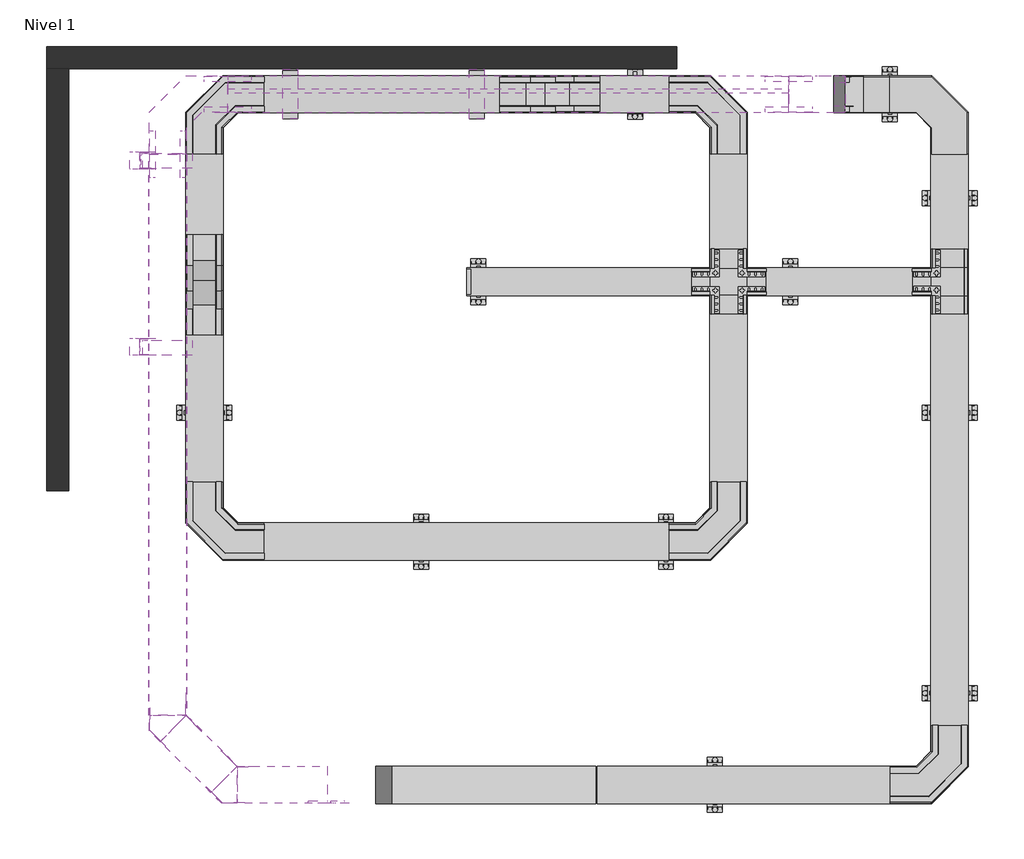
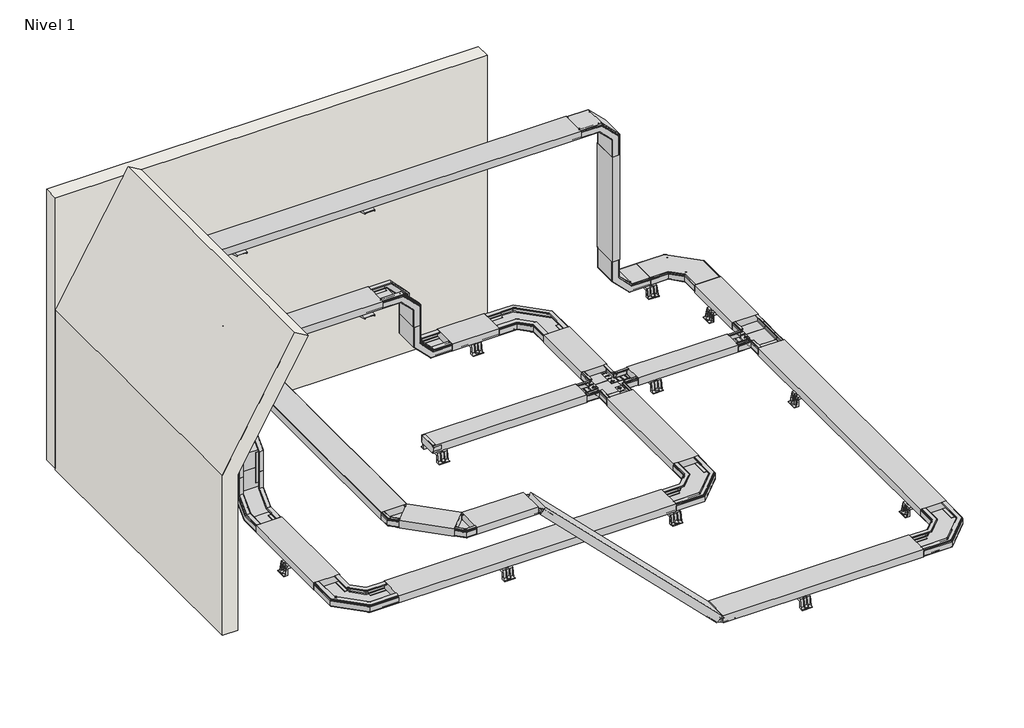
# One storey, incomplete: 83 proxies, 19 cable carrier fittings, 18 cable carrier segments, 2 walls.
"""IFC4 building model written with IfcOpenShell, lengths in millimetres."""

from ifc_helpers import new_model, si_unit, frame, origin, place, context, project, spatial, polyline, outline, extrude, transform, mapped, element, save
from components import generic_models_6ad4b34d, generic_models_a6422015, generic_models_e9cec0f6, generic_models_3a76c5b3, generic_models_60ac8231, generic_models_fcc492fe, generic_models_37840590, generic_models_46448a1f, generic_models_967abdb5, generic_models_b6d866a1, generic_models_7a9899f3, generic_models_7da3a50a, generic_models_42cf7297, generic_models_4e1091ae, cable_carrier_fitting_d8d1faad, cable_carrier_fitting_498f85e9, cable_carrier_fitting_5215da82, cable_carrier_fitting_34d8d39c, cable_carrier_fitting_aa413bb8, cable_carrier_fitting_2ceb56a0, cable_carrier_fitting_805e520f, cable_carrier_fitting_e7411418, cable_carrier_fitting_6fc50fa4, muro_recto_muro_recto_891dabb9, muros_2_muros_2_61a0869e

model = new_model("IFC4")

# Units and contexts
model_context = context("Model", 3, world=origin())
ifc_project = project(units=[si_unit("LENGTHUNIT", "METRE", prefix="MILLI")], contexts=[model_context])

# Site, building, storey
site = spatial("IfcSite", under=ifc_project)
building = spatial("IfcBuilding", under=site)
storey = spatial("IfcBuildingStorey", under=building, Name="Nivel 1", Elevation=0.0)

# Proxies
placement = place(None, origin())
generic_models_shape = generic_models_6ad4b34d(model_context)
element("IfcBuildingElementProxy", 1, Name="Cable_Tray_PDBPE_Basorplast : Cable_Tray_PDBPE_Basorplast", ObjectType="Cable_Tray_PDBPE_Basorplast : Cable_Tray_PDBPE_Basorplast", at=placement, inside=storey, context=model_context, shape_type="MappedRepresentation", body=[
    mapped(generic_models_shape, transform((5526.7431292, 2141.3690541, 48.6), x_axis=(0.0, 1.0, 0.0), y_axis=(-1.0, 0.0, 0.0), z_axis=(0.0, 0.0, 1.0))),
])
element("IfcBuildingElementProxy", 2, Name="Cable_Tray_PDBPE_Basorplast : Cable_Tray_PDBPE_Basorplast", ObjectType="Cable_Tray_PDBPE_Basorplast : Cable_Tray_PDBPE_Basorplast", at=placement, inside=storey, context=model_context, shape_type="MappedRepresentation", body=[
    mapped(generic_models_shape, transform((5526.7431292, 1998.5690541, 48.6), x_axis=(-1.0, 0.0, 0.0), y_axis=(0.0, -1.0, 0.0), z_axis=(0.0, 0.0, 1.0))),
])
element("IfcBuildingElementProxy", 3, Name="Cable_Tray_PDBPE_Basorplast : Cable_Tray_PDBPE_Basorplast", ObjectType="Cable_Tray_PDBPE_Basorplast : Cable_Tray_PDBPE_Basorplast", at=placement, inside=storey, context=model_context, shape_type="MappedRepresentation", body=[
    mapped(generic_models_shape, transform((4343.85035, 2142.4290541, 48.6), x_axis=(0.0, 1.0, 0.0), y_axis=(-1.0, 0.0, 0.0), z_axis=(0.0, 0.0, 1.0))),
])
element("IfcBuildingElementProxy", 4, Name="Cable_Tray_PDBPE_Basorplast : Cable_Tray_PDBPE_Basorplast", ObjectType="Cable_Tray_PDBPE_Basorplast : Cable_Tray_PDBPE_Basorplast", at=placement, inside=storey, context=model_context, shape_type="MappedRepresentation", body=[
    mapped(generic_models_shape, transform((4343.85035, 1997.5090541, 48.6), x_axis=(-1.0, 0.0, 0.0), y_axis=(0.0, -1.0, 0.0), z_axis=(0.0, 0.0, 1.0))),
])
element("IfcBuildingElementProxy", 5, Name="Cable_Tray_PDBPE_Basorplast : Cable_Tray_PDBPE_Basorplast", ObjectType="Cable_Tray_PDBPE_Basorplast : Cable_Tray_PDBPE_Basorplast", at=placement, inside=storey, context=model_context, shape_type="MappedRepresentation", body=[
    mapped(generic_models_shape, transform((4538.77035, 1997.5090541, 48.6), x_axis=(0.0, -1.0, 0.0), y_axis=(1.0, 0.0, 0.0), z_axis=(0.0, 0.0, 1.0))),
])
element("IfcBuildingElementProxy", 6, Name="Cable_Tray_PDBPE_Basorplast : Cable_Tray_PDBPE_Basorplast", ObjectType="Cable_Tray_PDBPE_Basorplast : Cable_Tray_PDBPE_Basorplast", at=placement, inside=storey, context=model_context, shape_type="MappedRepresentation", body=[
    mapped(generic_models_shape, transform((4538.77035, 2142.4290541, 48.6), x_axis=(1.0, 0.0, 0.0), y_axis=(0.0, 1.0, 0.0), z_axis=(0.0, 0.0, 1.0))),
])
generic_models_2_shape = generic_models_a6422015(model_context)
element("IfcBuildingElementProxy", 7, Name="Cable_Tray_Cover_TCCBPE_Basorplast : Basorplast TCCBPE 60X200", ObjectType="Cable_Tray_Cover_TCCBPE_Basorplast : Basorplast TCCBPE 60X200", at=placement, inside=storey, context=model_context, shape_type="MappedRepresentation", body=[
    mapped(generic_models_2_shape, transform((5303.1431292, 3072.4322597, 105.0), x_axis=(-1.0, 0.0, 0.0), y_axis=(0.0, -1.0, 0.0), z_axis=(0.0, 0.0, 1.0))),
])
generic_models_3_shape = generic_models_e9cec0f6(model_context)
element("IfcBuildingElementProxy", 8, Name="Cable_Tray_Cover_TCPBPE_Basorplast : Basorplast TCPBPE 200", ObjectType="Cable_Tray_Cover_TCPBPE_Basorplast : Basorplast TCPBPE 200", at=placement, inside=storey, context=model_context, shape_type="MappedRepresentation", body=[
    mapped(generic_models_3_shape, transform((5624.1431292, 2752.4322597, 105.0), x_axis=(0.0, 1.0, 0.0), y_axis=(-1.0, 0.0, 0.0), z_axis=(0.0, 0.0, 1.0))),
])
generic_models_4_shape = generic_models_3a76c5b3(model_context)
element("IfcBuildingElementProxy", 9, Name="Cable_Tray_Divider_Profile_PSBPE_Basorplast : Basorplast PSBPE 60", ObjectType="Cable_Tray_Divider_Profile_PSBPE_Basorplast : Basorplast PSBPE 60", at=placement, inside=storey, context=model_context, shape_type="MappedRepresentation", body=[
    mapped(generic_models_4_shape, transform((1761.6960663, 3101.6474373, 1511.1086545), x_axis=(1.0, 0.0, 0.0), y_axis=(0.0, 1.0, 0.0), z_axis=(0.0, 0.0, 1.0))),
])
generic_models_5_shape = generic_models_60ac8231(model_context)
element("IfcBuildingElementProxy", 10, Name="Cable_Tray_FinalCover_TFBPE_Basorplast : Basorplast TFBPE 60X150", ObjectType="Cable_Tray_FinalCover_TFBPE_Basorplast : Basorplast TFBPE 60X150", at=placement, inside=storey, context=model_context, shape_type="MappedRepresentation", body=[
    mapped(generic_models_5_shape, transform((3041.31035, 2069.9690541, 75.0), x_axis=(0.0, -1.0, 0.0), y_axis=(0.0, 0.0, 1.0), z_axis=(-1.0, 0.0, 0.0))),
])
generic_models_6_shape = generic_models_fcc492fe(model_context)
element("IfcBuildingElementProxy", 11, Name="PSHGR_Support-Basorplast : Basorplast PSHGR 600", ObjectType="PSHGR_Support-Basorplast : Basorplast PSHGR 600", at=placement, inside=storey, context=model_context, shape_type="MappedRepresentation", body=[
    mapped(generic_models_6_shape, transform((1290.5958632, 1722.1007757, 1555.1098924), x_axis=(0.0, 1.0, 0.0), y_axis=(0.0, 0.0, 1.0), z_axis=(1.0, 0.0, 0.0))),
])
element("IfcBuildingElementProxy", 12, Name="PSHGR_Support-Basorplast : Basorplast PSHGR 600", ObjectType="PSHGR_Support-Basorplast : Basorplast PSHGR 600", at=placement, inside=storey, context=model_context, shape_type="MappedRepresentation", body=[
    mapped(generic_models_6_shape, transform((1294.1960663, 2718.9670724, 1555.1098924), x_axis=(0.0, 1.0, 0.0), y_axis=(0.0, 0.0, 1.0), z_axis=(1.0, 0.0, 0.0))),
])
generic_models_7_shape = generic_models_37840590(model_context)
element("IfcBuildingElementProxy", 13, Name="KSHGR_Support-Basorplast : Basorplast KSHGR", ObjectType="KSHGR_Support-Basorplast : Basorplast KSHGR", at=placement, inside=storey, context=model_context, shape_type="MappedRepresentation", body=[
    mapped(generic_models_7_shape, transform((1262.7254216, 2718.9670724, 1854.317976), x_axis=(0.0, 1.0, 0.0), y_axis=(0.5000000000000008, 0.0, 0.8660254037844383), z_axis=(0.8660254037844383, 0.0, -0.5000000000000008))),
])
element("IfcBuildingElementProxy", 14, Name="KSHGR_Support-Basorplast : Basorplast KSHGR", ObjectType="KSHGR_Support-Basorplast : Basorplast KSHGR", at=placement, inside=storey, context=model_context, shape_type="MappedRepresentation", body=[
    mapped(generic_models_7_shape, transform((1262.7254216, 1722.1007757, 1854.317976), x_axis=(0.0, 1.0, 0.0), y_axis=(0.5000000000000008, 0.0, 0.8660254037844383), z_axis=(0.8660254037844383, 0.0, -0.5000000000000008))),
])
generic_models_8_shape = generic_models_46448a1f(model_context)
element("IfcBuildingElementProxy", 15, Name="Cable_Tray_Cover_TBPE_Basorplast : Basorplast TBPE 200", ObjectType="Cable_Tray_Cover_TBPE_Basorplast : Basorplast TBPE 200", at=placement, inside=storey, context=model_context, shape_type="MappedRepresentation", body=[
    mapped(generic_models_8_shape, transform((1441.6341343, 2751.6322597, 1510.0), x_axis=(1.0, 0.0, 0.0), y_axis=(0.0, 1.0, 0.0), z_axis=(0.0, 0.0, 1.0))),
])
generic_models_9_shape = generic_models_967abdb5(model_context)
element("IfcBuildingElementProxy", 16, Name="JUBPE_Juction_H60-Basorplast : Basorplast JUBPE 60", ObjectType="JUBPE_Juction_H60-Basorplast : Basorplast JUBPE 60", at=placement, inside=storey, context=model_context, shape_type="MappedRepresentation", body=[
    mapped(generic_models_9_shape, transform((1345.2960663, 2752.0322597, 1453.6), x_axis=(1.0000000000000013, 0.0, 0.0), y_axis=(0.0, 1.0000000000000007, 0.0), z_axis=(0.0, 0.0, 1.0000000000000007))),
])
element("IfcBuildingElementProxy", 17, Name="JUBPE_Juction_H60-Basorplast : Basorplast JUBPE 60", ObjectType="JUBPE_Juction_H60-Basorplast : Basorplast JUBPE 60", at=placement, inside=storey, context=model_context, shape_type="MappedRepresentation", body=[
    mapped(generic_models_9_shape, transform((1538.0960663, 2752.0322597, 1453.6), x_axis=(-1.0000000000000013, 0.0, 0.0), y_axis=(0.0, -1.0000000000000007, 0.0), z_axis=(0.0, 0.0, 1.0000000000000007))),
])
element("IfcBuildingElementProxy", 18, Name="JUBPE_Juction_H60-Basorplast : Basorplast JUBPE 60", ObjectType="JUBPE_Juction_H60-Basorplast : Basorplast JUBPE 60", at=placement, inside=storey, context=model_context, shape_type="MappedRepresentation", body=[
    mapped(generic_models_9_shape, transform((1762.0960663, 2976.0322597, 1453.6), x_axis=(0.0, 1.0, 0.0), y_axis=(-1.0, 0.0, 0.0), z_axis=(0.0, 0.0, 1.0))),
])
element("IfcBuildingElementProxy", 19, Name="JUBPE_Juction_H60-Basorplast : Basorplast JUBPE 60", ObjectType="JUBPE_Juction_H60-Basorplast : Basorplast JUBPE 60", at=placement, inside=storey, context=model_context, shape_type="MappedRepresentation", body=[
    mapped(generic_models_9_shape, transform((1762.0960663, 3168.8322597, 1453.6), x_axis=(0.0, -1.0, 0.0), y_axis=(1.0, 0.0, 0.0), z_axis=(0.0, 0.0, 1.0))),
])
element("IfcBuildingElementProxy", 20, Name="JUBPE_Juction_H60-Basorplast : Basorplast JUBPE 60", ObjectType="JUBPE_Juction_H60-Basorplast : Basorplast JUBPE 60", at=placement, inside=storey, context=model_context, shape_type="MappedRepresentation", body=[
    mapped(generic_models_9_shape, transform((4762.7431292, 2976.0322597, 1453.6), x_axis=(0.0, 1.0, 0.0), y_axis=(-1.0, 0.0, 0.0), z_axis=(0.0, 0.0, 1.0))),
])
element("IfcBuildingElementProxy", 21, Name="JUBPE_Juction_H60-Basorplast : Basorplast JUBPE 60", ObjectType="JUBPE_Juction_H60-Basorplast : Basorplast JUBPE 60", at=placement, inside=storey, context=model_context, shape_type="MappedRepresentation", body=[
    mapped(generic_models_9_shape, transform((4762.7431292, 3168.8322597, 1453.6), x_axis=(0.0, -1.0, 0.0), y_axis=(1.0, 0.0, 0.0), z_axis=(0.0, 0.0, 1.0))),
])
element("IfcBuildingElementProxy", 22, Name="JUBPE_Juction_H60-Basorplast : Basorplast JUBPE 60", ObjectType="JUBPE_Juction_H60-Basorplast : Basorplast JUBPE 60", at=placement, inside=storey, context=model_context, shape_type="MappedRepresentation", body=[
    mapped(generic_models_9_shape, transform((5302.7431292, 3168.8322597, 48.6), x_axis=(0.0, -1.0, 0.0), y_axis=(1.0, 0.0, 0.0), z_axis=(0.0, 0.0, 1.0))),
])
element("IfcBuildingElementProxy", 23, Name="JUBPE_Juction_H60-Basorplast : Basorplast JUBPE 60", ObjectType="JUBPE_Juction_H60-Basorplast : Basorplast JUBPE 60", at=placement, inside=storey, context=model_context, shape_type="MappedRepresentation", body=[
    mapped(generic_models_9_shape, transform((5302.7431292, 2976.0322597, 48.6), x_axis=(0.0, 1.0, 0.0), y_axis=(-1.0, 0.0, 0.0), z_axis=(0.0, 0.0, 1.0))),
])
element("IfcBuildingElementProxy", 24, Name="JUBPE_Juction_H60-Basorplast : Basorplast JUBPE 60", ObjectType="JUBPE_Juction_H60-Basorplast : Basorplast JUBPE 60", at=placement, inside=storey, context=model_context, shape_type="MappedRepresentation", body=[
    mapped(generic_models_9_shape, transform((1956.8419592, 776.3690541, 48.600106), x_axis=(0.0, -1.0, 0.0), y_axis=(0.999999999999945, 0.0, 3.3163585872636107e-07), z_axis=(-3.3163585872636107e-07, 0.0, 0.999999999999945))),
])
element("IfcBuildingElementProxy", 25, Name="JUBPE_Juction_H60-Basorplast : Basorplast JUBPE 60", ObjectType="JUBPE_Juction_H60-Basorplast : Basorplast JUBPE 60", at=placement, inside=storey, context=model_context, shape_type="MappedRepresentation", body=[
    mapped(generic_models_9_shape, transform((1956.8419592, 583.5690541, 48.600106), x_axis=(0.0, 1.0, 0.0), y_axis=(-0.999999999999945, 0.0, -3.3163585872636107e-07), z_axis=(-3.3163585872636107e-07, 0.0, 0.999999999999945))),
])
element("IfcBuildingElementProxy", 26, Name="JUBPE_Juction_H60-Basorplast : Basorplast JUBPE 60", ObjectType="JUBPE_Juction_H60-Basorplast : Basorplast JUBPE 60", at=placement, inside=storey, context=model_context, shape_type="MappedRepresentation", body=[
    mapped(generic_models_9_shape, transform((1540.8419507, 999.1690541, 48.599968), x_axis=(0.999999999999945, 0.0, 3.3163585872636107e-07), y_axis=(0.0, 1.0, 0.0), z_axis=(-3.3163585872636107e-07, 0.0, 0.999999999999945))),
])
element("IfcBuildingElementProxy", 27, Name="JUBPE_Juction_H60-Basorplast : Basorplast JUBPE 60", ObjectType="JUBPE_Juction_H60-Basorplast : Basorplast JUBPE 60", at=placement, inside=storey, context=model_context, shape_type="MappedRepresentation", body=[
    mapped(generic_models_9_shape, transform((1733.6419507, 999.1690541, 48.600032), x_axis=(-0.999999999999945, 0.0, -3.3163585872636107e-07), y_axis=(0.0, -1.0, 0.0), z_axis=(-3.3163585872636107e-07, 0.0, 0.999999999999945))),
])
element("IfcBuildingElementProxy", 28, Name="JUBPE_Juction_H60-Basorplast : Basorplast JUBPE 60", ObjectType="JUBPE_Juction_H60-Basorplast : Basorplast JUBPE 60", at=placement, inside=storey, context=model_context, shape_type="MappedRepresentation", body=[
    mapped(generic_models_9_shape, transform((4121.71035, 2976.0322597, 48.6), x_axis=(0.0, 1.0, 0.0), y_axis=(-1.0, 0.0, 0.0), z_axis=(0.0, 0.0, 1.0))),
])
element("IfcBuildingElementProxy", 29, Name="JUBPE_Juction_H60-Basorplast : Basorplast JUBPE 60", ObjectType="JUBPE_Juction_H60-Basorplast : Basorplast JUBPE 60", at=placement, inside=storey, context=model_context, shape_type="MappedRepresentation", body=[
    mapped(generic_models_9_shape, transform((4121.71035, 3168.8322597, 48.6), x_axis=(0.0, -1.0, 0.0), y_axis=(1.0, 0.0, 0.0), z_axis=(0.0, 0.0, 1.0))),
])
element("IfcBuildingElementProxy", 30, Name="JUBPE_Juction_H60-Basorplast : Basorplast JUBPE 60", ObjectType="JUBPE_Juction_H60-Basorplast : Basorplast JUBPE 60", at=placement, inside=storey, context=model_context, shape_type="MappedRepresentation", body=[
    mapped(generic_models_9_shape, transform((3754.368984, 2976.0322597, 48.6), x_axis=(0.0, 1.0, 0.0), y_axis=(-1.0, 0.0, 0.0), z_axis=(0.0, 0.0, 1.0))),
])
element("IfcBuildingElementProxy", 31, Name="JUBPE_Juction_H60-Basorplast : Basorplast JUBPE 60", ObjectType="JUBPE_Juction_H60-Basorplast : Basorplast JUBPE 60", at=placement, inside=storey, context=model_context, shape_type="MappedRepresentation", body=[
    mapped(generic_models_9_shape, transform((3754.368984, 3168.8322597, 48.6), x_axis=(0.0, -1.0, 0.0), y_axis=(1.0, 0.0, 0.0), z_axis=(0.0, 0.0, 1.0))),
])
element("IfcBuildingElementProxy", 32, Name="JUBPE_Juction_H60-Basorplast : Basorplast JUBPE 60", ObjectType="JUBPE_Juction_H60-Basorplast : Basorplast JUBPE 60", at=placement, inside=storey, context=model_context, shape_type="MappedRepresentation", body=[
    mapped(generic_models_9_shape, transform((4537.71035, 2752.8322597, 48.6), x_axis=(-1.0, 0.0, 0.0), y_axis=(0.0, -1.0, 0.0), z_axis=(0.0, 0.0, 1.0))),
])
element("IfcBuildingElementProxy", 33, Name="JUBPE_Juction_H60-Basorplast : Basorplast JUBPE 60", ObjectType="JUBPE_Juction_H60-Basorplast : Basorplast JUBPE 60", at=placement, inside=storey, context=model_context, shape_type="MappedRepresentation", body=[
    mapped(generic_models_9_shape, transform((4344.91035, 2752.8322597, 48.6), x_axis=(1.0, 0.0, 0.0), y_axis=(0.0, 1.0, 0.0), z_axis=(0.0, 0.0, 1.0))),
])
element("IfcBuildingElementProxy", 34, Name="JUBPE_Juction_H60-Basorplast : Basorplast JUBPE 60", ObjectType="JUBPE_Juction_H60-Basorplast : Basorplast JUBPE 60", at=placement, inside=storey, context=model_context, shape_type="MappedRepresentation", body=[
    mapped(generic_models_9_shape, transform((3213.568984, 2976.0322597, 588.6), x_axis=(0.0, 1.0, 0.0), y_axis=(-1.0, 0.0, 0.0), z_axis=(0.0, 0.0, 1.0))),
])
element("IfcBuildingElementProxy", 35, Name="JUBPE_Juction_H60-Basorplast : Basorplast JUBPE 60", ObjectType="JUBPE_Juction_H60-Basorplast : Basorplast JUBPE 60", at=placement, inside=storey, context=model_context, shape_type="MappedRepresentation", body=[
    mapped(generic_models_9_shape, transform((3213.568984, 3168.8322597, 588.6), x_axis=(0.0, -1.0, 0.0), y_axis=(1.0, 0.0, 0.0), z_axis=(0.0, 0.0, 1.0))),
])
element("IfcBuildingElementProxy", 36, Name="JUBPE_Juction_H60-Basorplast : Basorplast JUBPE 60", ObjectType="JUBPE_Juction_H60-Basorplast : Basorplast JUBPE 60", at=placement, inside=storey, context=model_context, shape_type="MappedRepresentation", body=[
    mapped(generic_models_9_shape, transform((1957.6419465, 3168.8322597, 588.6), x_axis=(0.0, -1.0, 0.0), y_axis=(1.0, 0.0, 0.0), z_axis=(0.0, 0.0, 1.0))),
])
element("IfcBuildingElementProxy", 37, Name="JUBPE_Juction_H60-Basorplast : Basorplast JUBPE 60", ObjectType="JUBPE_Juction_H60-Basorplast : Basorplast JUBPE 60", at=placement, inside=storey, context=model_context, shape_type="MappedRepresentation", body=[
    mapped(generic_models_9_shape, transform((1957.6419465, 2976.0322597, 588.6), x_axis=(0.0, 1.0, 0.0), y_axis=(-1.0, 0.0, 0.0), z_axis=(0.0, 0.0, 1.0))),
])
element("IfcBuildingElementProxy", 38, Name="JUBPE_Juction_H60-Basorplast : Basorplast JUBPE 60", ObjectType="JUBPE_Juction_H60-Basorplast : Basorplast JUBPE 60", at=placement, inside=storey, context=model_context, shape_type="MappedRepresentation", body=[
    mapped(generic_models_9_shape, transform((1540.8419465, 2322.0322597, 588.6), x_axis=(1.0, 0.0, 0.0), y_axis=(0.0, 1.0, 0.0), z_axis=(0.0, 0.0, 1.0))),
])
element("IfcBuildingElementProxy", 39, Name="JUBPE_Juction_H60-Basorplast : Basorplast JUBPE 60", ObjectType="JUBPE_Juction_H60-Basorplast : Basorplast JUBPE 60", at=placement, inside=storey, context=model_context, shape_type="MappedRepresentation", body=[
    mapped(generic_models_9_shape, transform((1733.6419465, 2322.0322597, 588.6), x_axis=(-1.0, 0.0, 0.0), y_axis=(0.0, -1.0, 0.0), z_axis=(0.0, 0.0, 1.0))),
])
element("IfcBuildingElementProxy", 40, Name="JUBPE_Juction_H60-Basorplast : Basorplast JUBPE 60", ObjectType="JUBPE_Juction_H60-Basorplast : Basorplast JUBPE 60", at=placement, inside=storey, context=model_context, shape_type="MappedRepresentation", body=[
    mapped(generic_models_9_shape, transform((1733.6419465, 2752.8322597, 588.6), x_axis=(-1.0, 0.0, 0.0), y_axis=(0.0, -1.0, 0.0), z_axis=(0.0, 0.0, 1.0))),
])
element("IfcBuildingElementProxy", 41, Name="JUBPE_Juction_H60-Basorplast : Basorplast JUBPE 60", ObjectType="JUBPE_Juction_H60-Basorplast : Basorplast JUBPE 60", at=placement, inside=storey, context=model_context, shape_type="MappedRepresentation", body=[
    mapped(generic_models_9_shape, transform((1540.8419465, 2752.8322597, 588.6), x_axis=(1.0, 0.0, 0.0), y_axis=(0.0, 1.0, 0.0), z_axis=(0.0, 0.0, 1.0))),
])
element("IfcBuildingElementProxy", 42, Name="JUBPE_Juction_H60-Basorplast : Basorplast JUBPE 60", ObjectType="JUBPE_Juction_H60-Basorplast : Basorplast JUBPE 60", at=placement, inside=storey, context=model_context, shape_type="MappedRepresentation", body=[
    mapped(generic_models_9_shape, transform((1540.8419465, 1782.8322592, 48.6), x_axis=(1.0, 5.339933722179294e-09, 0.0), y_axis=(-5.339933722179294e-09, 1.0, 0.0), z_axis=(0.0, 0.0, 1.0))),
])
element("IfcBuildingElementProxy", 43, Name="JUBPE_Juction_H60-Basorplast : Basorplast JUBPE 60", ObjectType="JUBPE_Juction_H60-Basorplast : Basorplast JUBPE 60", at=placement, inside=storey, context=model_context, shape_type="MappedRepresentation", body=[
    mapped(generic_models_9_shape, transform((1733.6419465, 1782.8322602, 48.6), x_axis=(-1.0, -5.339930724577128e-09, 0.0), y_axis=(5.339930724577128e-09, -1.0, 0.0), z_axis=(0.0, 0.0, 1.0))),
])
element("IfcBuildingElementProxy", 44, Name="JUBPE_Juction_H60-Basorplast : Basorplast JUBPE 60", ObjectType="JUBPE_Juction_H60-Basorplast : Basorplast JUBPE 60", at=placement, inside=storey, context=model_context, shape_type="MappedRepresentation", body=[
    mapped(generic_models_9_shape, transform((4344.9103443, 1000.3690541, 48.5999976), x_axis=(1.0, 0.0, 0.0), y_axis=(0.0, 1.0, 0.0), z_axis=(0.0, 0.0, 1.0))),
])
element("IfcBuildingElementProxy", 45, Name="JUBPE_Juction_H60-Basorplast : Basorplast JUBPE 60", ObjectType="JUBPE_Juction_H60-Basorplast : Basorplast JUBPE 60", at=placement, inside=storey, context=model_context, shape_type="MappedRepresentation", body=[
    mapped(generic_models_9_shape, transform((4537.7103443, 1000.3690541, 48.5999976), x_axis=(-1.0, 0.0, 0.0), y_axis=(0.0, -1.0, 0.0), z_axis=(0.0, 0.0, 1.0))),
])
element("IfcBuildingElementProxy", 46, Name="JUBPE_Juction_H60-Basorplast : Basorplast JUBPE 60", ObjectType="JUBPE_Juction_H60-Basorplast : Basorplast JUBPE 60", at=placement, inside=storey, context=model_context, shape_type="MappedRepresentation", body=[
    mapped(generic_models_9_shape, transform((4121.7103474, 776.3690541, 48.5998938), x_axis=(0.0, -1.0, 0.0), y_axis=(0.9999999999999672, 0.0, -2.561323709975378e-07), z_axis=(2.561323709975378e-07, 0.0, 0.9999999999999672))),
])
element("IfcBuildingElementProxy", 47, Name="JUBPE_Juction_H60-Basorplast : Basorplast JUBPE 60", ObjectType="JUBPE_Juction_H60-Basorplast : Basorplast JUBPE 60", at=placement, inside=storey, context=model_context, shape_type="MappedRepresentation", body=[
    mapped(generic_models_9_shape, transform((4121.7103474, 583.5690541, 48.5998938), x_axis=(0.0, 1.0, 0.0), y_axis=(-0.9999999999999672, 0.0, 2.561323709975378e-07), z_axis=(2.561323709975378e-07, 0.0, 0.9999999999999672))),
])
element("IfcBuildingElementProxy", 48, Name="JUBPE_Juction_H60-Basorplast : Basorplast JUBPE 60", ObjectType="JUBPE_Juction_H60-Basorplast : Basorplast JUBPE 60", at=placement, inside=storey, context=model_context, shape_type="MappedRepresentation", body=[
    mapped(generic_models_9_shape, transform((5302.7525218, -717.0038511, 48.6000029), x_axis=(0.0, 1.0, 0.0), y_axis=(-1.0, 0.0, 0.0), z_axis=(0.0, 0.0, 1.0))),
])
element("IfcBuildingElementProxy", 49, Name="JUBPE_Juction_H60-Basorplast : Basorplast JUBPE 60", ObjectType="JUBPE_Juction_H60-Basorplast : Basorplast JUBPE 60", at=placement, inside=storey, context=model_context, shape_type="MappedRepresentation", body=[
    mapped(generic_models_9_shape, transform((5302.7525218, -524.2038511, 48.6000029), x_axis=(0.0, -1.0, 0.0), y_axis=(1.0, 0.0, 0.0), z_axis=(0.0, 0.0, 1.0))),
])
element("IfcBuildingElementProxy", 50, Name="JUBPE_Juction_H60-Basorplast : Basorplast JUBPE 60", ObjectType="JUBPE_Juction_H60-Basorplast : Basorplast JUBPE 60", at=placement, inside=storey, context=model_context, shape_type="MappedRepresentation", body=[
    mapped(generic_models_9_shape, transform((5526.7525218, -300.2038511, 48.6000029), x_axis=(1.0, 0.0, 0.0), y_axis=(0.0, 1.0, 0.0), z_axis=(0.0, 0.0, 1.0))),
])
element("IfcBuildingElementProxy", 51, Name="JUBPE_Juction_H60-Basorplast : Basorplast JUBPE 60", ObjectType="JUBPE_Juction_H60-Basorplast : Basorplast JUBPE 60", at=placement, inside=storey, context=model_context, shape_type="MappedRepresentation", body=[
    mapped(generic_models_9_shape, transform((5719.5525218, -300.2038511, 48.6000029), x_axis=(-1.0, 0.0, 0.0), y_axis=(0.0, -1.0, 0.0), z_axis=(0.0, 0.0, 1.0))),
])
element("IfcBuildingElementProxy", 52, Name="JUBPE_Juction_H60-Basorplast : Basorplast JUBPE 60", ObjectType="JUBPE_Juction_H60-Basorplast : Basorplast JUBPE 60", at=placement, inside=storey, context=model_context, shape_type="MappedRepresentation", body=[
    mapped(generic_models_9_shape, transform((5719.5431292, 2752.8322597, 48.6), x_axis=(-1.0, 0.0, 0.0), y_axis=(0.0, -1.0, 0.0), z_axis=(0.0, 0.0, 1.0))),
])
element("IfcBuildingElementProxy", 53, Name="JUBPE_Juction_H60-Basorplast : Basorplast JUBPE 60", ObjectType="JUBPE_Juction_H60-Basorplast : Basorplast JUBPE 60", at=placement, inside=storey, context=model_context, shape_type="MappedRepresentation", body=[
    mapped(generic_models_9_shape, transform((5526.7431292, 2752.8322597, 48.6), x_axis=(1.0, 0.0, 0.0), y_axis=(0.0, 1.0, 0.0), z_axis=(0.0, 0.0, 1.0))),
])
element("IfcBuildingElementProxy", 54, Name="JUBPE_Juction_H60-Basorplast : Basorplast JUBPE 60", ObjectType="JUBPE_Juction_H60-Basorplast : Basorplast JUBPE 60", at=placement, inside=storey, context=model_context, shape_type="MappedRepresentation", body=[
    mapped(generic_models_9_shape, transform((5006.7431292, 2976.0322597, 1210.4), x_axis=(0.0, 1.0, 0.0), y_axis=(0.0, 0.0, 1.0), z_axis=(1.0, 0.0, 0.0))),
])
element("IfcBuildingElementProxy", 55, Name="JUBPE_Juction_H60-Basorplast : Basorplast JUBPE 60", ObjectType="JUBPE_Juction_H60-Basorplast : Basorplast JUBPE 60", at=placement, inside=storey, context=model_context, shape_type="MappedRepresentation", body=[
    mapped(generic_models_9_shape, transform((5006.7431292, 3168.8322597, 1210.4), x_axis=(0.0, -1.0, 0.0), y_axis=(0.0, 0.0, -1.0), z_axis=(1.0, 0.0, 0.0))),
])
element("IfcBuildingElementProxy", 56, Name="JUBPE_Juction_H60-Basorplast : Basorplast JUBPE 60", ObjectType="JUBPE_Juction_H60-Basorplast : Basorplast JUBPE 60", at=placement, inside=storey, context=model_context, shape_type="MappedRepresentation", body=[
    mapped(generic_models_9_shape, transform((5006.7431292, 2976.0322597, 344.6), x_axis=(0.0, 1.0, 0.0), y_axis=(0.0, 0.0, 1.0), z_axis=(1.0, 0.0, 0.0))),
])
element("IfcBuildingElementProxy", 57, Name="JUBPE_Juction_H60-Basorplast : Basorplast JUBPE 60", ObjectType="JUBPE_Juction_H60-Basorplast : Basorplast JUBPE 60", at=placement, inside=storey, context=model_context, shape_type="MappedRepresentation", body=[
    mapped(generic_models_9_shape, transform((5006.7431292, 3168.8322597, 344.6), x_axis=(0.0, -1.0, 0.0), y_axis=(0.0, 0.0, -1.0), z_axis=(1.0, 0.0, 0.0))),
])
element("IfcBuildingElementProxy", 58, Name="JUBPE_Juction_H60-Basorplast : Basorplast JUBPE 60", ObjectType="JUBPE_Juction_H60-Basorplast : Basorplast JUBPE 60", at=placement, inside=storey, context=model_context, shape_type="MappedRepresentation", body=[
    mapped(generic_models_9_shape, transform((3457.568984, 2976.0322597, 344.6), x_axis=(0.0, 1.0, 0.0), y_axis=(0.0, 0.0, 1.0), z_axis=(1.0, 0.0, 0.0))),
])
element("IfcBuildingElementProxy", 59, Name="JUBPE_Juction_H60-Basorplast : Basorplast JUBPE 60", ObjectType="JUBPE_Juction_H60-Basorplast : Basorplast JUBPE 60", at=placement, inside=storey, context=model_context, shape_type="MappedRepresentation", body=[
    mapped(generic_models_9_shape, transform((3457.568984, 3168.8322597, 344.6), x_axis=(0.0, -1.0, 0.0), y_axis=(0.0, 0.0, -1.0), z_axis=(1.0, 0.0, 0.0))),
])
element("IfcBuildingElementProxy", 60, Name="JUBPE_Juction_H60-Basorplast : Basorplast JUBPE 60", ObjectType="JUBPE_Juction_H60-Basorplast : Basorplast JUBPE 60", at=placement, inside=storey, context=model_context, shape_type="MappedRepresentation", body=[
    mapped(generic_models_9_shape, transform((1733.6419465, 2078.8322597, 344.6), x_axis=(-1.0, 0.0, 0.0), y_axis=(0.0, 0.0, -1.0), z_axis=(0.0, -1.0, 0.0))),
])
element("IfcBuildingElementProxy", 61, Name="JUBPE_Juction_H60-Basorplast : Basorplast JUBPE 60", ObjectType="JUBPE_Juction_H60-Basorplast : Basorplast JUBPE 60", at=placement, inside=storey, context=model_context, shape_type="MappedRepresentation", body=[
    mapped(generic_models_9_shape, transform((1540.8419465, 2078.8322597, 344.6), x_axis=(1.0, 0.0, 0.0), y_axis=(0.0, 0.0, 1.0), z_axis=(0.0, -1.0, 0.0))),
])
generic_models_10_shape = generic_models_b6d866a1(model_context)
element("IfcBuildingElementProxy", 62, Name="SVG_Support-Basorplast : Basorplast SVG 150", ObjectType="SVG_Support-Basorplast : Basorplast SVG 150", at=placement, inside=storey, context=model_context, shape_type="MappedRepresentation", body=[
    mapped(generic_models_10_shape, transform((4771.6934815, 2069.9690541, 45.0), x_axis=(0.0, 1.0, 0.0), y_axis=(1.0, 0.0, 0.0), z_axis=(0.0, 0.0, -1.0))),
])
element("IfcBuildingElementProxy", 63, Name="SVG_Support-Basorplast : Basorplast SVG 150", ObjectType="SVG_Support-Basorplast : Basorplast SVG 150", at=placement, inside=storey, context=model_context, shape_type="MappedRepresentation", body=[
    mapped(generic_models_10_shape, transform((3102.9476673, 2069.9690541, 45.0), x_axis=(0.0, -1.0, 0.0), y_axis=(-1.0, 0.0, 0.0), z_axis=(0.0, 0.0, -1.0))),
])
generic_models_11_shape = generic_models_7a9899f3(model_context)
element("IfcBuildingElementProxy", 64, Name="SVG_Support-Basorplast : Basorplast SVG 200", ObjectType="SVG_Support-Basorplast : Basorplast SVG 200", at=placement, inside=storey, context=model_context, shape_type="MappedRepresentation", body=[
    mapped(generic_models_11_shape, transform((5303.6431292, 3072.4322597, 45.0), x_axis=(0.0, 1.0, 0.0), y_axis=(1.0, 0.0, 0.0), z_axis=(0.0, 0.0, -1.0))),
])
element("IfcBuildingElementProxy", 65, Name="SVG_Support-Basorplast : Basorplast SVG 200", ObjectType="SVG_Support-Basorplast : Basorplast SVG 200", at=placement, inside=storey, context=model_context, shape_type="MappedRepresentation", body=[
    mapped(generic_models_11_shape, transform((5624.1431292, 2517.3699329, 45.0), x_axis=(1.0, 0.0, 0.0), y_axis=(0.0, -1.0, 0.0), z_axis=(0.0, 0.0, -1.0))),
])
element("IfcBuildingElementProxy", 66, Name="SVG_Support-Basorplast : Basorplast SVG 200", ObjectType="SVG_Support-Basorplast : Basorplast SVG 200", at=placement, inside=storey, context=model_context, shape_type="MappedRepresentation", body=[
    mapped(generic_models_11_shape, transform((5624.1431292, 1369.8617942, 45.0), x_axis=(-1.0, 0.0, 0.0), y_axis=(0.0, 1.0, 0.0), z_axis=(0.0, 0.0, -1.0))),
])
element("IfcBuildingElementProxy", 67, Name="SVG_Support-Basorplast : Basorplast SVG 200", ObjectType="SVG_Support-Basorplast : Basorplast SVG 200", at=placement, inside=storey, context=model_context, shape_type="MappedRepresentation", body=[
    mapped(generic_models_11_shape, transform((5624.1431292, -130.1382058, 45.0), x_axis=(-1.0, 0.0, 0.0), y_axis=(0.0, 1.0, 0.0), z_axis=(0.0, 0.0, -1.0))),
])
element("IfcBuildingElementProxy", 68, Name="SVG_Support-Basorplast : Basorplast SVG 200", ObjectType="SVG_Support-Basorplast : Basorplast SVG 200", at=placement, inside=storey, context=model_context, shape_type="MappedRepresentation", body=[
    mapped(generic_models_11_shape, transform((4367.9646382, -620.6038511, 44.7072063), x_axis=(0.0, -1.0, 0.0), y_axis=(-0.9999999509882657, 0.0, -0.00031308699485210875), z_axis=(0.00031308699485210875, 0.0, -0.9999999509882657))),
])
element("IfcBuildingElementProxy", 69, Name="SVG_Support-Basorplast : Basorplast SVG 200", ObjectType="SVG_Support-Basorplast : Basorplast SVG 200", at=placement, inside=storey, context=model_context, shape_type="MappedRepresentation", body=[
    mapped(generic_models_11_shape, transform((4106.1151956, 679.9690541, 44.9998956), x_axis=(0.0, 1.0, 0.0), y_axis=(0.9999999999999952, 0.0, -9.807774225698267e-08), z_axis=(-9.807774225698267e-08, 0.0, -0.9999999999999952))),
])
element("IfcBuildingElementProxy", 70, Name="SVG_Support-Basorplast : Basorplast SVG 200", ObjectType="SVG_Support-Basorplast : Basorplast SVG 200", at=placement, inside=storey, context=model_context, shape_type="MappedRepresentation", body=[
    mapped(generic_models_11_shape, transform((1637.2419477, 1369.6734809, 45.0), x_axis=(-1.0, -5.339936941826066e-09, 0.0), y_axis=(-5.339936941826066e-09, 1.0, 0.0), z_axis=(0.0, 0.0, -1.0))),
])
element("IfcBuildingElementProxy", 71, Name="SVG_Support-Basorplast : Basorplast SVG 200", ObjectType="SVG_Support-Basorplast : Basorplast SVG 200", at=placement, inside=storey, context=model_context, shape_type="MappedRepresentation", body=[
    mapped(generic_models_11_shape, transform((3940.4271593, 3086.5795633, 45.0), x_axis=(0.0, 1.0, 0.0), y_axis=(1.0, 0.0, 0.0), z_axis=(0.0, 0.0, -1.0))),
])
element("IfcBuildingElementProxy", 72, Name="SVG_Support-Basorplast : Basorplast SVG 200", ObjectType="SVG_Support-Basorplast : Basorplast SVG 200", at=placement, inside=storey, context=model_context, shape_type="MappedRepresentation", body=[
    mapped(generic_models_11_shape, transform((2797.0628682, 679.9690541, 45.000024), x_axis=(0.0, 1.0, 0.0), y_axis=(0.9999999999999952, 0.0, -9.807774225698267e-08), z_axis=(-9.807774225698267e-08, 0.0, -0.9999999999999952))),
])
generic_models_12_shape = generic_models_7da3a50a(model_context)
element("IfcBuildingElementProxy", 73, Name="SHG_Support-Basorplast : Basorplast SHG 200", ObjectType="SHG_Support-Basorplast : Basorplast SHG 200", at=placement, inside=storey, context=model_context, shape_type="MappedRepresentation", body=[
    mapped(generic_models_12_shape, transform((1441.1960663, 2717.4670724, 1449.7992984), x_axis=(0.0, -1.0000000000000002, 0.0), y_axis=(-1.0000000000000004, 0.0, 0.0), z_axis=(0.0, 0.0, -1.0000000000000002))),
])
element("IfcBuildingElementProxy", 74, Name="SHG_Support-Basorplast : Basorplast SHG 200", ObjectType="SHG_Support-Basorplast : Basorplast SHG 200", at=placement, inside=storey, context=model_context, shape_type="MappedRepresentation", body=[
    mapped(generic_models_12_shape, transform((1441.1960663, 1717.4670724, 1449.7992984), x_axis=(0.0, -1.0000000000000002, 0.0), y_axis=(-1.0000000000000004, 0.0, 0.0), z_axis=(0.0, 0.0, -1.0000000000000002))),
])
element("IfcBuildingElementProxy", 75, Name="SHG_Support-Basorplast : Basorplast SHG 200", ObjectType="SHG_Support-Basorplast : Basorplast SHG 200", at=placement, inside=storey, context=model_context, shape_type="MappedRepresentation", body=[
    mapped(generic_models_12_shape, transform((3093.6460487, 3072.9322597, 585.0), x_axis=(-1.0, 0.0, 0.0), y_axis=(0.0, 1.0, 0.0), z_axis=(0.0, 0.0, -1.0))),
])
element("IfcBuildingElementProxy", 76, Name="SHG_Support-Basorplast : Basorplast SHG 200", ObjectType="SHG_Support-Basorplast : Basorplast SHG 200", at=placement, inside=storey, context=model_context, shape_type="MappedRepresentation", body=[
    mapped(generic_models_12_shape, transform((2097.6795059, 3072.9322597, 585.0), x_axis=(-1.0, 0.0, 0.0), y_axis=(0.0, 1.0, 0.0), z_axis=(0.0, 0.0, -1.0))),
])
element("IfcBuildingElementProxy", 77, Name="SHG_Support-Basorplast : Basorplast SHG 200", ObjectType="SHG_Support-Basorplast : Basorplast SHG 200", at=placement, inside=storey, context=model_context, shape_type="MappedRepresentation", body=[
    mapped(generic_models_12_shape, transform((3093.6460487, 3072.9322597, 1450.0), x_axis=(-1.0, 0.0, 0.0), y_axis=(0.0, 1.0, 0.0), z_axis=(0.0, 0.0, -1.0))),
])
element("IfcBuildingElementProxy", 78, Name="SHG_Support-Basorplast : Basorplast SHG 200", ObjectType="SHG_Support-Basorplast : Basorplast SHG 200", at=placement, inside=storey, context=model_context, shape_type="MappedRepresentation", body=[
    mapped(generic_models_12_shape, transform((2096.6795059, 3072.9322597, 1450.0), x_axis=(-1.0, 0.0, 0.0), y_axis=(0.0, 1.0, 0.0), z_axis=(0.0, 0.0, -1.0))),
])
generic_models_13_shape = generic_models_42cf7297(model_context)
element("IfcBuildingElementProxy", 79, Name="Cable_Tray_Cover_TCXBPE_Basorplast : Basorplast TCXBPE 60X200", ObjectType="Cable_Tray_Cover_TCXBPE_Basorplast : Basorplast TCXBPE 60X200", at=placement, inside=storey, context=model_context, shape_type="MappedRepresentation", body=[
    mapped(generic_models_13_shape, transform((4763.1431292, 3271.4322597, 1510.0), x_axis=(1.0, 0.0, 0.0), y_axis=(0.0, 1.0, 0.0), z_axis=(0.0, 0.0, 1.0))),
])
generic_models_14_shape = generic_models_4e1091ae(model_context)
element("IfcBuildingElementProxy", 80, Name="JUBPE-B_Juction_H60-Basorplast : Basorplast JUBPE-B 60", ObjectType="JUBPE-B_Juction_H60-Basorplast : Basorplast JUBPE-B 60", at=placement, inside=storey, context=model_context, shape_type="MappedRepresentation", body=[
    mapped(generic_models_14_shape, transform((1537.0960663, -128.8589092, 1453.6), x_axis=(1.0, 0.0, 0.0), y_axis=(0.0, 1.0, 0.0), z_axis=(0.0, 0.0, 1.0))),
])
element("IfcBuildingElementProxy", 81, Name="JUBPE-B_Juction_H60-Basorplast : Basorplast JUBPE-B 60", ObjectType="JUBPE-B_Juction_H60-Basorplast : Basorplast JUBPE-B 60", at=placement, inside=storey, context=model_context, shape_type="MappedRepresentation", body=[
    mapped(generic_models_14_shape, transform((1345.2960663, -208.319284, 1453.6), x_axis=(1.0, 0.0, 0.0), y_axis=(0.0, 1.0, 0.0), z_axis=(0.0, 0.0, 1.0))),
])
element("IfcBuildingElementProxy", 82, Name="JUBPE-B_Juction_H60-Basorplast : Basorplast JUBPE-B 60", ObjectType="JUBPE-B_Juction_H60-Basorplast : Basorplast JUBPE-B 60", at=placement, inside=storey, context=model_context, shape_type="MappedRepresentation", body=[
    mapped(generic_models_14_shape, transform((1726.1739809, -439.3510373, 1453.6), x_axis=(0.707106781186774, 0.7071067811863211, 0.0), y_axis=(-0.7071067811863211, 0.707106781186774, 0.0), z_axis=(0.0, 0.0, 1.0))),
])
element("IfcBuildingElementProxy", 83, Name="JUBPE-B_Juction_H60-Basorplast : Basorplast JUBPE-B 60", ObjectType="JUBPE-B_Juction_H60-Basorplast : Basorplast JUBPE-B 60", at=placement, inside=storey, context=model_context, shape_type="MappedRepresentation", body=[
    mapped(generic_models_14_shape, transform((1646.7378702, -631.1610878, 1453.6), x_axis=(0.707106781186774, 0.7071067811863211, 0.0), y_axis=(-0.7071067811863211, 0.707106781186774, 0.0), z_axis=(0.0, 0.0, 1.0))),
])

# Cable carrier fittings
cable_carrier_fitting_shape = cable_carrier_fitting_d8d1faad(model_context)
element("IfcCableCarrierFitting", 84, ObjectType="CRBPE_Horizontal Cross-over_Basorplast : 4 x Basorplast PDBPE", at=placement, inside=storey, context=model_context, shape_type="MappedRepresentation", body=[
    mapped(cable_carrier_fitting_shape, transform((4441.31035, 2069.9690541, 75.0), x_axis=(0.0, -1.0, 0.0), y_axis=(1.0, 0.0, 0.0), z_axis=(0.0, 0.0, 1.0))),
])
cable_carrier_fitting_2_shape = cable_carrier_fitting_498f85e9(model_context)
element("IfcCableCarrierFitting", 85, ObjectType="TEBPE_Horizontal Tee_Basorplast : 2 x Basorplast PDBPE", at=placement, inside=storey, context=model_context, shape_type="MappedRepresentation", body=[
    mapped(cable_carrier_fitting_2_shape, transform((5623.1431292, 2069.9690541, 75.0), x_axis=(-1.0, 0.0, 0.0), y_axis=(0.0, -1.0, 0.0), z_axis=(0.0, 0.0, 1.0))),
])
cable_carrier_fitting_3_shape = cable_carrier_fitting_5215da82(model_context)
element("IfcCableCarrierFitting", 86, ObjectType="JUBPE-A_Juction 60-Basorplast : 2 x Basorplast JUBPE-A 60", at=placement, inside=storey, context=model_context, shape_type="MappedRepresentation", body=[
    mapped(cable_carrier_fitting_3_shape, transform((3730.4204358, -620.6038511, 108.3481295), x_axis=(0.7071067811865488, 0.0, -0.7071067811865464), y_axis=(0.7071067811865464, 0.0, 0.7071067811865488), z_axis=(0.0, -1.0, 0.0))),
])
cable_carrier_fitting_4_shape = cable_carrier_fitting_34d8d39c(model_context)
element("IfcCableCarrierFitting", 87, ObjectType="JUBPE-A_Juction 60-Basorplast : 2 x Basorplast JUBPE-A 60", at=placement, inside=storey, context=model_context, shape_type="MappedRepresentation", body=[
    mapped(cable_carrier_fitting_4_shape, transform((2293.9321771, -620.6038511, 1510.0), x_axis=(1.0, 0.0, 0.0), y_axis=(0.0, 0.0, 1.0), z_axis=(0.0, -1.0, 0.0))),
])
cable_carrier_fitting_5_shape = cable_carrier_fitting_aa413bb8(model_context)
element("IfcCableCarrierFitting", 88, ObjectType="JUBPE-B_Juction-Basorplast : 2 x Basorplast JUBPE-B 60", at=placement, inside=storey, context=model_context, shape_type="MappedRepresentation", body=[
    mapped(cable_carrier_fitting_5_shape, transform((1488.5210663, -301.5427403, 1480.0), x_axis=(0.0, -1.0, 0.0), y_axis=(1.0, 0.0, 0.0), z_axis=(0.0, 0.0, 1.0))),
])
element("IfcCableCarrierFitting", 89, ObjectType="JUBPE-B_Juction-Basorplast : 2 x Basorplast JUBPE-B 60", at=placement, inside=storey, context=model_context, shape_type="MappedRepresentation", body=[
    mapped(cable_carrier_fitting_5_shape, transform((1813.9321771, -595.8046573, 1480.0), x_axis=(0.7071067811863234, -0.7071067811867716, 0.0), y_axis=(0.7071067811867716, 0.7071067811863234, 0.0), z_axis=(0.0, 0.0, 1.0))),
])
cable_carrier_fitting_6_shape = cable_carrier_fitting_2ceb56a0(model_context)
element("IfcCableCarrierFitting", 90, ObjectType="CXBPE_Vertical_Outside_Bend-Basorplast : Basorplast CXBPE", at=placement, inside=storey, context=model_context, shape_type="MappedRepresentation", body=[
    mapped(cable_carrier_fitting_6_shape, transform((5003.1431292, 3072.4322597, 1450.0), x_axis=(1.0, 0.0, 0.0), y_axis=(0.0, 0.0, -1.0), z_axis=(0.0, 1.0, 0.0))),
])
element("IfcCableCarrierFitting", 91, ObjectType="CXBPE_Vertical_Outside_Bend-Basorplast : Basorplast CXBPE", at=placement, inside=storey, context=model_context, shape_type="MappedRepresentation", body=[
    mapped(cable_carrier_fitting_6_shape, transform((1637.2419465, 2082.4322597, 585.0), x_axis=(0.0, -1.0, 0.0), y_axis=(0.0, 0.0, -1.0), z_axis=(1.0, 0.0, 0.0))),
])
cable_carrier_fitting_7_shape = cable_carrier_fitting_805e520f(model_context)
element("IfcCableCarrierFitting", 92, ObjectType="CXBPE_Vertical_Outside_Bend-Basorplast : Basorplast CXBPE", at=placement, inside=storey, context=model_context, shape_type="MappedRepresentation", body=[
    mapped(cable_carrier_fitting_7_shape, transform((3453.968984, 3072.4322597, 585.0), x_axis=(1.0, 0.0, 0.0), y_axis=(0.0, 0.0, 1.0), z_axis=(0.0, -1.0, 0.0))),
])
cable_carrier_fitting_8_shape = cable_carrier_fitting_e7411418(model_context)
element("IfcCableCarrierFitting", 93, ObjectType="CCBPE_Vertical_Inside_Bend-Basorplast : Basorplast CCBPE", at=placement, inside=storey, context=model_context, shape_type="MappedRepresentation", body=[
    mapped(cable_carrier_fitting_8_shape, transform((5033.1431292, 3072.4322597, 75.0), x_axis=(0.0, 0.0, -1.0), y_axis=(1.0, 0.0, 0.0), z_axis=(0.0, -1.0, 0.0))),
])
element("IfcCableCarrierFitting", 94, ObjectType="CCBPE_Vertical_Inside_Bend-Basorplast : Basorplast CCBPE", at=placement, inside=storey, context=model_context, shape_type="MappedRepresentation", body=[
    mapped(cable_carrier_fitting_8_shape, transform((3483.968984, 3072.4322597, 75.0), x_axis=(-1.0, 0.0, 0.0), y_axis=(0.0, 0.0, 1.0), z_axis=(0.0, 1.0, 0.0))),
])
element("IfcCableCarrierFitting", 95, ObjectType="CCBPE_Vertical_Inside_Bend-Basorplast : Basorplast CCBPE", at=placement, inside=storey, context=model_context, shape_type="MappedRepresentation", body=[
    mapped(cable_carrier_fitting_8_shape, transform((1637.2419465, 2052.4322597, 75.0), x_axis=(0.0, 0.0, -1.0), y_axis=(0.0, -1.0, 0.0), z_axis=(-1.0, 0.0, 0.0))),
])
cable_carrier_fitting_9_shape = cable_carrier_fitting_6fc50fa4(model_context)
element("IfcCableCarrierFitting", 96, ObjectType="CPBPE_Horizontal Bend_Basorplast : Basorplast CPBPE", at=placement, inside=storey, context=model_context, shape_type="MappedRepresentation", body=[
    mapped(cable_carrier_fitting_9_shape, transform((1441.6960663, 3072.4322597, 1480.0), x_axis=(-1.0, 0.0, 0.0), y_axis=(0.0, -1.0, 0.0), z_axis=(0.0, 0.0, 1.0))),
])
element("IfcCableCarrierFitting", 97, ObjectType="CPBPE_Horizontal Bend_Basorplast : Basorplast CPBPE", at=placement, inside=storey, context=model_context, shape_type="MappedRepresentation", body=[
    mapped(cable_carrier_fitting_9_shape, transform((5623.1431292, 3072.4322597, 75.0), x_axis=(0.0, 1.0, 0.0), y_axis=(-1.0, 0.0, 0.0), z_axis=(0.0, 0.0, 1.0))),
])
element("IfcCableCarrierFitting", 98, ObjectType="CPBPE_Horizontal Bend_Basorplast : Basorplast CPBPE", at=placement, inside=storey, context=model_context, shape_type="MappedRepresentation", body=[
    mapped(cable_carrier_fitting_9_shape, transform((1637.2419465, 3072.4322597, 615.0), x_axis=(-1.0, 0.0, 0.0), y_axis=(0.0, -1.0, 0.0), z_axis=(0.0, 0.0, 1.0))),
])
element("IfcCableCarrierFitting", 99, ObjectType="CPBPE_Horizontal Bend_Basorplast : Basorplast CPBPE", at=placement, inside=storey, context=model_context, shape_type="MappedRepresentation", body=[
    mapped(cable_carrier_fitting_9_shape, transform((4441.31035, 3072.4322597, 75.0), x_axis=(0.0, 1.0, 0.0), y_axis=(-1.0, 0.0, 0.0), z_axis=(0.0, 0.0, 1.0))),
])
element("IfcCableCarrierFitting", 100, ObjectType="CPBPE_Horizontal Bend_Basorplast : Basorplast CPBPE", at=placement, inside=storey, context=model_context, shape_type="MappedRepresentation", body=[
    mapped(cable_carrier_fitting_9_shape, transform((4441.3103542, 679.9690541, 75.0), x_axis=(0.999999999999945, 0.0, 3.316358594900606e-07), y_axis=(0.0, 1.0, 0.0), z_axis=(-3.316358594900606e-07, 0.0, 0.999999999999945))),
])
element("IfcCableCarrierFitting", 101, ObjectType="CPBPE_Horizontal Bend_Basorplast : Basorplast CPBPE", at=placement, inside=storey, context=model_context, shape_type="MappedRepresentation", body=[
    mapped(cable_carrier_fitting_9_shape, transform((1637.2419507, 679.9690541, 75.0), x_axis=(0.0, -1.0, 0.0), y_axis=(0.999999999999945, 0.0, 3.3163585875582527e-07), z_axis=(-3.3163585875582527e-07, 0.0, 0.999999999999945))),
])
element("IfcCableCarrierFitting", 102, ObjectType="CPBPE_Horizontal Bend_Basorplast : Basorplast CPBPE", at=placement, inside=storey, context=model_context, shape_type="MappedRepresentation", body=[
    mapped(cable_carrier_fitting_9_shape, transform((5623.1525218, -620.6038511, 75.0000029), x_axis=(1.0, 0.0, 0.0), y_axis=(0.0, 1.0, 0.0), z_axis=(0.0, 0.0, 1.0))),
])

# Cable carrier segments
element("IfcCableCarrierSegment", 103, ObjectType="Basorplast BPE", at=placement, inside=storey, context=model_context, shape_type="SweptSolid", body=[
    extrude(outline(polyline([(1341.6960663, 2751.6322597), (1541.6960663, 2751.6322597), (1541.6960663, -248.3677403), (1341.6960663, -248.3677403), (1341.6960663, 2751.6322597)])), frame((0.0, 0.0, 1450.0), z_axis=(0.0, 0.0, 1.0), x_axis=(1.0, 0.0, 0.0)), (0.0, 0.0, 1.0), 60.0),
])
element("IfcCableCarrierSegment", 104, ObjectType="Basorplast BPE", at=placement, inside=storey, context=model_context, shape_type="SweptSolid", body=[
    extrude(outline(polyline([(1762.4960663, 2972.4322597), (1762.4960663, 3172.4322597), (4762.3431292, 3172.4322597), (4762.3431292, 2972.4322597), (1762.4960663, 2972.4322597)])), frame((0.0, 0.0, 1450.0), z_axis=(0.0, 0.0, 1.0), x_axis=(1.0, 0.0, 0.0)), (0.0, 0.0, 1.0), 60.0),
])
element("IfcCableCarrierSegment", 105, ObjectType="Basorplast BPE", at=placement, inside=storey, context=model_context, shape_type="SweptSolid", body=[
    extrude(outline(polyline([(1400.2747101, -389.7890966), (1541.6960663, -248.3677403), (1813.9321771, -520.6038511), (1672.5108208, -662.0252073), (1400.2747101, -389.7890966)])), frame((0.0, 0.0, 1450.0), z_axis=(0.0, 0.0, 1.0), x_axis=(1.0, 0.0, 0.0)), (0.0, 0.0, 1.0), 60.0),
])
element("IfcCableCarrierSegment", 106, ObjectType="Basorplast BPE", at=placement, inside=storey, context=model_context, shape_type="SweptSolid", body=[
    extrude(outline(polyline([(1813.9321771, -720.6038511), (1813.9321771, -520.6038511), (2293.9321771, -520.6038511), (2293.9321771, -720.6038511), (1813.9321771, -720.6038511)])), frame((0.0, 0.0, 1450.0), z_axis=(0.0, 0.0, 1.0), x_axis=(1.0, 0.0, 0.0)), (0.0, 0.0, 1.0), 60.0),
])
element("IfcCableCarrierSegment", 107, ObjectType="Basorplast BPE", at=placement, inside=storey, context=model_context, shape_type="SweptSolid", body=[
    extrude(outline(polyline([(5003.1431292, 2972.4322597), (5003.1431292, 3172.4322597), (5063.1431292, 3172.4322597), (5063.1431292, 2972.4322597), (5003.1431292, 2972.4322597)])), frame((0.0, 0.0, 345.0), z_axis=(0.0, 0.0, 1.0), x_axis=(1.0, 0.0, 0.0)), (0.0, 0.0, 1.0), 865.0),
])
element("IfcCableCarrierSegment", 108, ObjectType="Basorplast BPE-C", at=placement, inside=storey, context=model_context, shape_type="SweptSolid", body=[
    extrude(outline(polyline([(4241.31035, 2144.9690541), (4241.31035, 1994.9690541), (3041.31035, 1994.9690541), (3041.31035, 2144.9690541), (4241.31035, 2144.9690541)])), frame((0.0, 0.0, 45.0), z_axis=(0.0, 0.0, 1.0), x_axis=(1.0, 0.0, 0.0)), (0.0, 0.0, 1.0), 60.0),
])
element("IfcCableCarrierSegment", 109, ObjectType="Basorplast BPE", at=placement, inside=storey, context=model_context, shape_type="SweptSolid", body=[
    extrude(outline(polyline([(5723.1431292, 2244.9690541), (5523.1431292, 2244.9690541), (5523.1431292, 2752.4322597), (5723.1431292, 2752.4322597), (5723.1431292, 2244.9690541)])), frame((0.0, 0.0, 45.0), z_axis=(0.0, 0.0, 1.0), x_axis=(1.0, 0.0, 0.0)), (0.0, 0.0, 1.0), 60.0),
])
element("IfcCableCarrierSegment", 110, ObjectType="Basorplast BPE", at=placement, inside=storey, context=model_context, shape_type="SweptSolid", body=[
    extrude(outline(polyline([(4341.31035, 1894.9690536), (4541.31035, 1894.9690545), (4541.3103542, 999.9690545), (4341.3103542, 999.9690536), (4341.31035, 1894.9690536)])), frame((0.0, 0.0, 45.0), z_axis=(0.0, 0.0, 1.0), x_axis=(1.0, 0.0, 0.0)), (0.0, 0.0, 1.0), 60.0),
])
element("IfcCableCarrierSegment", 111, ObjectType="Basorplast BPE", at=placement, inside=storey, context=model_context, shape_type="SweptSolid", body=[
    extrude(outline(polyline([(5423.1431292, 2144.9690541), (5423.1431292, 1994.9690541), (4641.31035, 1994.9690541), (4641.31035, 2144.9690541), (5423.1431292, 2144.9690541)])), frame((0.0, 0.0, 45.0), z_axis=(0.0, 0.0, 1.0), x_axis=(1.0, 0.0, 0.0)), (0.0, 0.0, 1.0), 60.0),
])
element("IfcCableCarrierSegment", 112, ObjectType="Basorplast BPE", at=placement, inside=storey, context=model_context, shape_type="SweptSolid", body=[
    extrude(outline(polyline([(4541.31035, 2244.9690541), (4341.31035, 2244.9690541), (4341.31035, 2752.4322597), (4541.31035, 2752.4322597), (4541.31035, 2244.9690541)])), frame((0.0, 0.0, 45.0), z_axis=(0.0, 0.0, 1.0), x_axis=(1.0, 0.0, 0.0)), (0.0, 0.0, 1.0), 60.0),
])
element("IfcCableCarrierSegment", 113, ObjectType="Basorplast BPE", at=placement, inside=storey, context=model_context, shape_type="SweptSolid", body=[
    extrude(outline(polyline([(5523.1431292, 1894.9690541), (5723.1431292, 1894.9690541), (5723.1431292, -300.6038511), (5523.1431292, -300.6038511), (5523.1431292, 1894.9690541)])), frame((0.0, 0.0, 45.0), z_axis=(0.0, 0.0, 1.0), x_axis=(1.0, 0.0, 0.0)), (0.0, 0.0, 1.0), 60.0),
])
element("IfcCableCarrierSegment", 114, ObjectType="Basorplast BPE", at=placement, inside=storey, context=model_context, shape_type="SweptSolid", body=[
    extrude(outline(polyline([(1537.2419465, 2752.4322597), (1737.2419465, 2752.4322597), (1737.2419465, 2322.4322597), (1537.2419465, 2322.4322597), (1537.2419465, 2752.4322597)])), frame((0.0, 0.0, 585.0), z_axis=(0.0, 0.0, 1.0), x_axis=(1.0, 0.0, 0.0)), (0.0, 0.0, 1.0), 60.0),
])
element("IfcCableCarrierSegment", 115, ObjectType="Basorplast BPE", at=placement, inside=storey, context=model_context, shape_type="SweptSolid", body=[
    extrude(outline(polyline([(1957.2419465, 2972.4322597), (1957.2419465, 3172.4322597), (3213.968984, 3172.4322597), (3213.968984, 2972.4322597), (1957.2419465, 2972.4322597)])), frame((0.0, 0.0, 585.0), z_axis=(0.0, 0.0, 1.0), x_axis=(1.0, 0.0, 0.0)), (0.0, 0.0, 1.0), 60.0),
])
element("IfcCableCarrierSegment", 116, ObjectType="Basorplast BPE", at=placement, inside=storey, context=model_context, shape_type="SweptSolid", body=[
    extrude(outline(polyline([(4121.31035, 3172.4322597), (4121.31035, 2972.4322597), (3753.968984, 2972.4322597), (3753.968984, 3172.4322597), (4121.31035, 3172.4322597)])), frame((0.0, 0.0, 45.0), z_axis=(0.0, 0.0, 1.0), x_axis=(1.0, 0.0, 0.0)), (0.0, 0.0, 1.0), 60.0),
])
element("IfcCableCarrierSegment", 117, ObjectType="Basorplast BPE", at=placement, inside=storey, context=model_context, shape_type="SweptSolid", body=[
    extrude(outline(polyline([(0.0, -200.0), (0.0, 0.0), (2164.0684036, 0.0), (2164.0684036, -200.0), (0.0, -200.0)])), frame((4121.3103513, 579.9690541, 44.9998939), z_axis=(9.807774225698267e-08, 0.0, 0.9999999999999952), x_axis=(-0.9999999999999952, 0.0, 9.807774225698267e-08)), (0.0, 0.0, 1.0), 60.0),
])
element("IfcCableCarrierSegment", 118, ObjectType="Basorplast BPE", at=placement, inside=storey, context=model_context, shape_type="SweptSolid", body=[
    extrude(outline(polyline([(1537.2419465, 1782.4322591), (1737.2419465, 1782.4322602), (1737.2419507, 999.9690546), (1537.2419507, 999.9690535), (1537.2419465, 1782.4322591)])), frame((0.0, 0.0, 45.0), z_axis=(0.0, 0.0, 1.0), x_axis=(1.0, 0.0, 0.0)), (0.0, 0.0, 1.0), 60.0),
])
element("IfcCableCarrierSegment", 119, ObjectType="Basorplast BPE", at=placement, inside=storey, context=model_context, shape_type="SweptSolid", body=[
    extrude(outline(polyline([(0.0, -200.0), (0.0, 0.0), (1563.4579168, 0.0), (1563.4579168, -200.0), (0.0, -200.0)])), frame((3739.6946816, -520.6038511, 44.5105031), z_axis=(-0.00031308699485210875, 0.0, 0.9999999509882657), x_axis=(0.9999999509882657, 0.0, 0.00031308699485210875)), (0.0, 0.0, 1.0), 60.0),
])
element("IfcCableCarrierSegment", 120, ObjectType="Basorplast BPE", at=placement, inside=storey, context=model_context, shape_type="SweptSolid", body=[
    extrude(outline(polyline([(0.0, -200.0), (0.0, 0.0), (1947.3986968, 0.0), (1947.3986968, -200.0), (0.0, -200.0)])), frame((2310.9752048, -520.6038511, 1442.9405468), z_axis=(0.7071067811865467, 0.0, 0.7071067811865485), x_axis=(0.7071067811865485, 0.0, -0.7071067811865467)), (0.0, 0.0, 1.0), 60.0),
])

# Walls
muro_recto_muro_recto_shape = muro_recto_muro_recto_891dabb9(model_context)
element("IfcWall", 121, ObjectType="Muro RECTO : Muro RECTO", at=placement, inside=storey, context=model_context, shape_type="MappedRepresentation", body=[
    mapped(muro_recto_muro_recto_shape, transform((0.0, 0.0, 0.0), x_axis=(1.0, 0.0, 0.0), y_axis=(0.0, 1.0, 0.0), z_axis=(0.0, 0.0, 1.0))),
])
muros_2_muros_2_shape = muros_2_muros_2_61a0869e(model_context)
element("IfcWall", 122, ObjectType="Muros 2 : Muros 2", at=placement, inside=storey, context=model_context, shape_type="MappedRepresentation", body=[
    mapped(muros_2_muros_2_shape, transform((0.0, 0.0, 0.0), x_axis=(1.0, 0.0, 0.0), y_axis=(0.0, 1.0, 0.0), z_axis=(0.0, 0.0, 1.0))),
])

save(model, "model.ifc")
